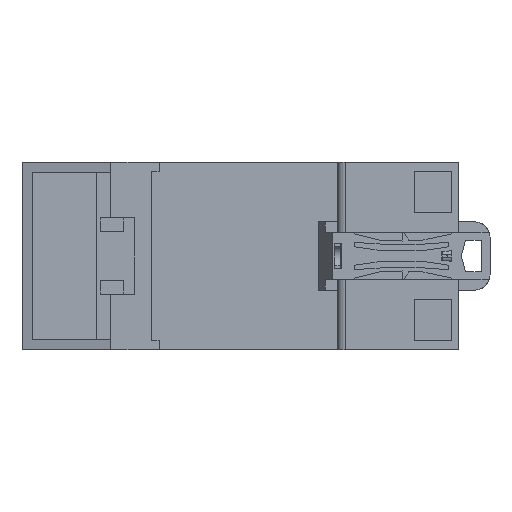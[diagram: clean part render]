
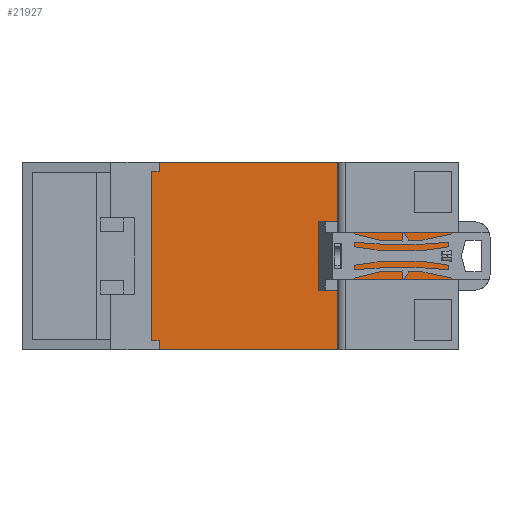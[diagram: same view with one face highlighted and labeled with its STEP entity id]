
A CAD part, left-side view. The second image highlights one B-rep face of the part: STEP entity #21927.
In plain terms, the highlighted planar face has unit normal (-1, 0, 0).
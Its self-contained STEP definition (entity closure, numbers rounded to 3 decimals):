
#39 = VERTEX_POINT ( 'NONE', #20246 ) ;
#45 = VERTEX_POINT ( 'NONE', #4926 ) ;
#46 = VERTEX_POINT ( 'NONE', #4925 ) ;
#1988 = VECTOR ( 'NONE', #24957, 1000. ) ;
#1996 = VECTOR ( 'NONE', #24976, 1000. ) ;
#2696 = VECTOR ( 'NONE', #14725, 1000. ) ;
#2721 = VECTOR ( 'NONE', #14770, 1000. ) ;
#2906 = ORIENTED_EDGE ( 'NONE', *, *, #19520, .F. ) ;
#2907 = ORIENTED_EDGE ( 'NONE', *, *, #19515, .F. ) ;
#2908 = ORIENTED_EDGE ( 'NONE', *, *, #25562, .F. ) ;
#2909 = ORIENTED_EDGE ( 'NONE', *, *, #8210, .T. ) ;
#2911 = ORIENTED_EDGE ( 'NONE', *, *, #19521, .F. ) ;
#2912 = ORIENTED_EDGE ( 'NONE', *, *, #20904, .T. ) ;
#2914 = ORIENTED_EDGE ( 'NONE', *, *, #19516, .T. ) ;
#2915 = ORIENTED_EDGE ( 'NONE', *, *, #20910, .T. ) ;
#2918 = ORIENTED_EDGE ( 'NONE', *, *, #19519, .T. ) ;
#2921 = ORIENTED_EDGE ( 'NONE', *, *, #8195, .F. ) ;
#2923 = ORIENTED_EDGE ( 'NONE', *, *, #19518, .T. ) ;
#2925 = ORIENTED_EDGE ( 'NONE', *, *, #19517, .T. ) ;
#3279 = VECTOR ( 'NONE', #24572, 1000. ) ;
#3290 = VECTOR ( 'NONE', #24575, 1000. ) ;
#3291 = VECTOR ( 'NONE', #24578, 1000. ) ;
#3292 = VECTOR ( 'NONE', #24581, 1000. ) ;
#3293 = VECTOR ( 'NONE', #24584, 1000. ) ;
#3294 = VECTOR ( 'NONE', #24587, 1000. ) ;
#3295 = VECTOR ( 'NONE', #24591, 1000. ) ;
#4774 = VERTEX_POINT ( 'NONE', #14139 ) ;
#4781 = VERTEX_POINT ( 'NONE', #14151 ) ;
#4784 = VERTEX_POINT ( 'NONE', #14155 ) ;
#4925 = CARTESIAN_POINT ( 'NONE',  ( -14.79, -18.763, -4.5 ) ) ;
#4926 = CARTESIAN_POINT ( 'NONE',  ( -14.79, -38.763, 1.2 ) ) ;
#7937 = AXIS2_PLACEMENT_3D ( 'NONE', #30117, #30118, #30119 ) ;
#8195 = EDGE_CURVE ( 'NONE', #4774, #21672, #14723, .T. ) ;
#8210 = EDGE_CURVE ( 'NONE', #4781, #4784, #14763, .T. ) ;
#9702 = VERTEX_POINT ( 'NONE', #16458 ) ;
#9732 = VERTEX_POINT ( 'NONE', #16484 ) ;
#9735 = VERTEX_POINT ( 'NONE', #16486 ) ;
#9743 = VERTEX_POINT ( 'NONE', #16492 ) ;
#12258 = CARTESIAN_POINT ( 'NONE',  ( -14.79, -18.763, 17.875 ) ) ;
#12304 = CARTESIAN_POINT ( 'NONE',  ( -14.79, -18.763, 4.5 ) ) ;
#14139 = CARTESIAN_POINT ( 'NONE',  ( -14.79, 16.637, 17.875 ) ) ;
#14151 = CARTESIAN_POINT ( 'NONE',  ( -14.79, 16.637, -17.875 ) ) ;
#14155 = CARTESIAN_POINT ( 'NONE',  ( -14.79, -18.763, -17.875 ) ) ;
#14723 = LINE ( 'NONE', #14724, #2696 ) ;
#14724 = CARTESIAN_POINT ( 'NONE',  ( -14.79, -41.763, 17.875 ) ) ;
#14725 = DIRECTION ( 'NONE',  ( 0., -1., 0. ) ) ;
#14763 = LINE ( 'NONE', #14769, #2721 ) ;
#14769 = CARTESIAN_POINT ( 'NONE',  ( -14.79, 16.637, -17.875 ) ) ;
#14770 = DIRECTION ( 'NONE',  ( 0., -1., 0. ) ) ;
#16458 = CARTESIAN_POINT ( 'NONE',  ( -14.79, -41.763, 4.5 ) ) ;
#16484 = CARTESIAN_POINT ( 'NONE',  ( -14.79, -41.763, 1.2 ) ) ;
#16486 = CARTESIAN_POINT ( 'NONE',  ( -14.79, -41.763, -4.5 ) ) ;
#16492 = CARTESIAN_POINT ( 'NONE',  ( -14.79, -41.763, -1.2 ) ) ;
#19515 = EDGE_CURVE ( 'NONE', #39, #9743, #24534, .T. ) ;
#19516 = EDGE_CURVE ( 'NONE', #39, #45, #24573, .T. ) ;
#19517 = EDGE_CURVE ( 'NONE', #45, #9732, #24576, .T. ) ;
#19518 = EDGE_CURVE ( 'NONE', #9702, #21679, #24579, .T. ) ;
#19519 = EDGE_CURVE ( 'NONE', #4774, #4781, #24582, .T. ) ;
#19520 = EDGE_CURVE ( 'NONE', #46, #4784, #24585, .T. ) ;
#19521 = EDGE_CURVE ( 'NONE', #9735, #46, #24588, .T. ) ;
#20246 = CARTESIAN_POINT ( 'NONE',  ( -14.79, -38.763, -1.2 ) ) ;
#20904 = EDGE_CURVE ( 'NONE', #9732, #9702, #24955, .T. ) ;
#20910 = EDGE_CURVE ( 'NONE', #9735, #9743, #24974, .T. ) ;
#21672 = VERTEX_POINT ( 'NONE', #12258 ) ;
#21679 = VERTEX_POINT ( 'NONE', #12304 ) ;
#21927 = ADVANCED_FACE ( 'NONE', ( #30107 ), #30091, .F. ) ;
#24534 = LINE ( 'NONE', #24571, #3279 ) ;
#24571 = CARTESIAN_POINT ( 'NONE',  ( -14.79, -38.763, -1.2 ) ) ;
#24572 = DIRECTION ( 'NONE',  ( 0., -1., 0. ) ) ;
#24573 = LINE ( 'NONE', #24574, #3290 ) ;
#24574 = CARTESIAN_POINT ( 'NONE',  ( -14.79, -38.763, 0. ) ) ;
#24575 = DIRECTION ( 'NONE',  ( 0., 0., 1. ) ) ;
#24576 = LINE ( 'NONE', #24577, #3291 ) ;
#24577 = CARTESIAN_POINT ( 'NONE',  ( -14.79, -38.763, 1.2 ) ) ;
#24578 = DIRECTION ( 'NONE',  ( 0., -1., 0. ) ) ;
#24579 = LINE ( 'NONE', #24580, #3292 ) ;
#24580 = CARTESIAN_POINT ( 'NONE',  ( -14.79, -56.08, 4.5 ) ) ;
#24581 = DIRECTION ( 'NONE',  ( 0., 1., 0. ) ) ;
#24582 = LINE ( 'NONE', #24583, #3293 ) ;
#24583 = CARTESIAN_POINT ( 'NONE',  ( -14.79, 16.637, 22.125 ) ) ;
#24584 = DIRECTION ( 'NONE',  ( 0., 0., -1. ) ) ;
#24585 = LINE ( 'NONE', #24586, #3294 ) ;
#24586 = CARTESIAN_POINT ( 'NONE',  ( -14.79, -18.763, 22.125 ) ) ;
#24587 = DIRECTION ( 'NONE',  ( 0., 0., -1. ) ) ;
#24588 = LINE ( 'NONE', #24590, #3295 ) ;
#24590 = CARTESIAN_POINT ( 'NONE',  ( -14.79, -56.08, -4.5 ) ) ;
#24591 = DIRECTION ( 'NONE',  ( 0., 1., 0. ) ) ;
#24955 = LINE ( 'NONE', #24956, #1988 ) ;
#24956 = CARTESIAN_POINT ( 'NONE',  ( -14.79, -41.763, 4.5 ) ) ;
#24957 = DIRECTION ( 'NONE',  ( 0., 0., 1. ) ) ;
#24974 = LINE ( 'NONE', #24975, #1996 ) ;
#24975 = CARTESIAN_POINT ( 'NONE',  ( -14.79, -41.763, 4.5 ) ) ;
#24976 = DIRECTION ( 'NONE',  ( 0., 0., 1. ) ) ;
#25562 = EDGE_CURVE ( 'NONE', #21672, #21679, #28247, .T. ) ;
#26889 = VECTOR ( 'NONE', #28250, 1000. ) ;
#27281 = EDGE_LOOP ( 'NONE', ( #2915, #2907, #2914, #2925, #2912, #2923, #2908, #2921, #2918, #2909, #2906, #2911 ) ) ;
#28247 = LINE ( 'NONE', #28249, #26889 ) ;
#28249 = CARTESIAN_POINT ( 'NONE',  ( -14.79, -18.763, 22.125 ) ) ;
#28250 = DIRECTION ( 'NONE',  ( 0., 0., -1. ) ) ;
#30091 = PLANE ( 'NONE',  #7937 ) ;
#30107 = FACE_OUTER_BOUND ( 'NONE', #27281, .T. ) ;
#30117 = CARTESIAN_POINT ( 'NONE',  ( -14.79, 16.637, 22.125 ) ) ;
#30118 = DIRECTION ( 'NONE',  ( 1., 0., 0. ) ) ;
#30119 = DIRECTION ( 'NONE',  ( 0., 0., -1. ) ) ;
